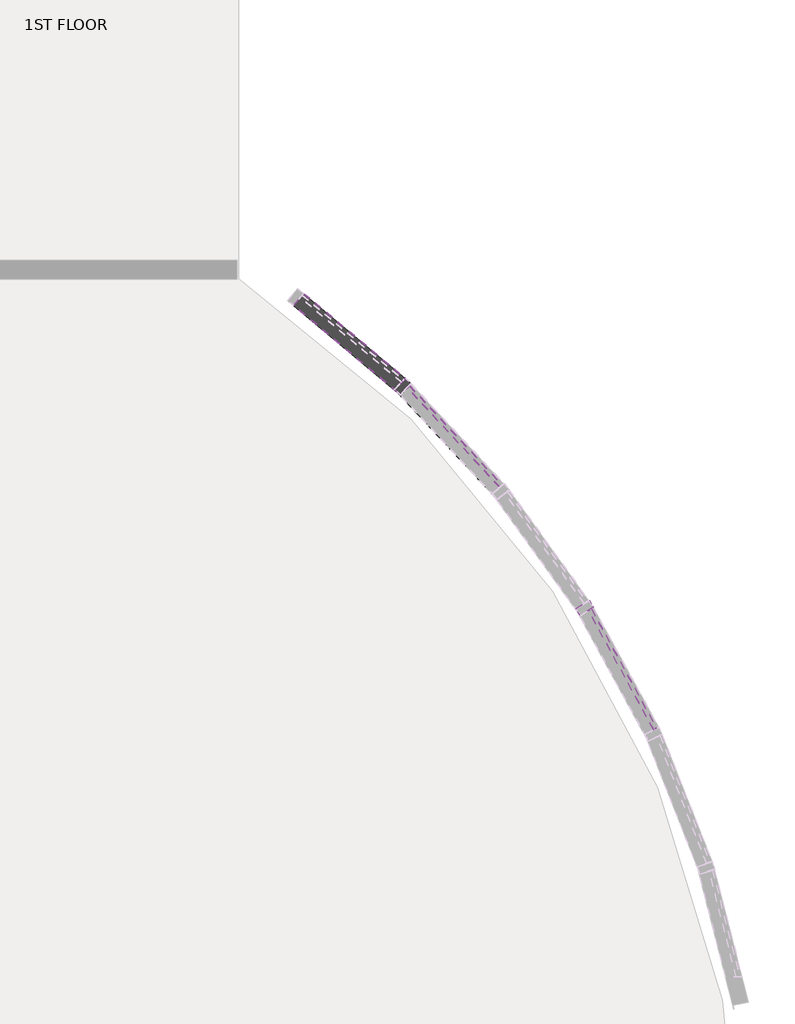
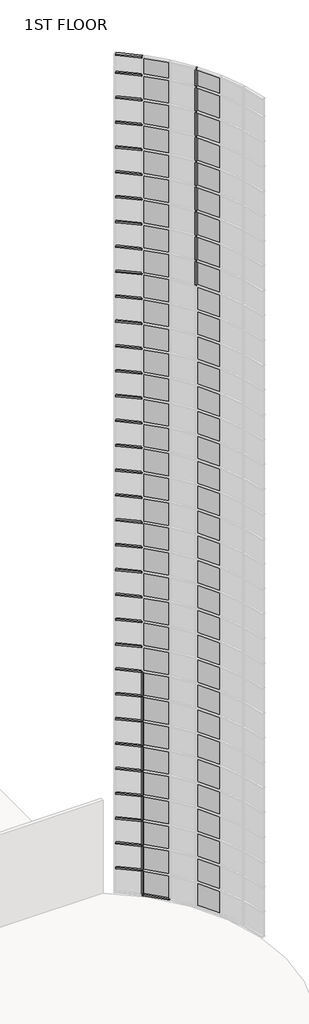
# One storey, part 12 of 17: 68 plates, 53 members.
"""IFC4 building model written with IfcOpenShell, lengths in millimetres."""

from ifc_helpers import new_model, si_unit, origin, place, context, project, spatial, transform, mapped, element, save
from components import member_5098c466, member_56cb0dcd, member_ae6f7b70, member_2b49869a, member_410c6227, system_panel_glazed_ce2914f7, system_panel_glazed_e049e42f, system_panel_glazed_5ae89cf9

model = new_model("IFC4")

# Units and contexts
model_context = context("Model", 3, world=origin())
ifc_project = project(units=[si_unit("LENGTHUNIT", "METRE", prefix="MILLI")], contexts=[model_context])

# Site, building, storey
site = spatial("IfcSite", under=ifc_project)
building = spatial("IfcBuilding", under=site)
storey = spatial("IfcBuildingStorey", under=building, Name="1ST FLOOR", Elevation=4572.0)

# Members
placement = place(None, origin())
member_shape = member_5098c466(model_context)
element("IfcMember", 1, ObjectType="Rectangular Mullion : 2.5\" x 5\" rectangular", at=placement, inside=storey, context=model_context, shape_type="MappedRepresentation", body=[
    mapped(member_shape, transform((45346.8045255, 23689.9028277, 45720.0), x_axis=(0.0, 0.0, 1.0), y_axis=(-0.6412039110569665, -0.767370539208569, 0.0), z_axis=(0.767370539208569, -0.6412039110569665, 0.0))),
])
member_2_shape = member_56cb0dcd(model_context)
element("IfcMember", 2, ObjectType="Rectangular Mullion : 2.5\" x 5\" rectangular", at=placement, inside=storey, context=model_context, shape_type="MappedRepresentation", body=[
    mapped(member_2_shape, transform((45392.8051979, 23646.3084778, 4572.0), x_axis=(0.0, 0.0, -1.0), y_axis=(-0.7318464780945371, -0.681469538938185, 0.0), z_axis=(-0.681469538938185, 0.7318464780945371, 0.0))),
])
member_3_shape = member_ae6f7b70(model_context)
element("IfcMember", 3, ObjectType="Rectangular Mullion : 2.5\" x 5\" rectangular", at=placement, inside=storey, context=model_context, shape_type="MappedRepresentation", body=[
    mapped(member_3_shape, transform((45346.8045255, 23689.9028277, 5791.2), x_axis=(0.0, 0.0, 1.0), y_axis=(-0.641203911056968, -0.7673705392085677, 0.0), z_axis=(0.7673705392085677, -0.641203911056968, 0.0))),
])
element("IfcMember", 4, ObjectType="Rectangular Mullion : 2.5\" x 5\" rectangular", at=placement, inside=storey, context=model_context, shape_type="MappedRepresentation", body=[
    mapped(member_3_shape, transform((45346.8045255, 23689.9028277, 7010.4), x_axis=(0.0, 0.0, 1.0), y_axis=(-0.641203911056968, -0.7673705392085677, 0.0), z_axis=(0.7673705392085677, -0.641203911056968, 0.0))),
])
element("IfcMember", 5, ObjectType="Rectangular Mullion : 2.5\" x 5\" rectangular", at=placement, inside=storey, context=model_context, shape_type="MappedRepresentation", body=[
    mapped(member_3_shape, transform((45346.8045255, 23689.9028277, 8229.6), x_axis=(0.0, 0.0, 1.0), y_axis=(-0.641203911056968, -0.7673705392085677, 0.0), z_axis=(0.7673705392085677, -0.641203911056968, 0.0))),
])
element("IfcMember", 6, ObjectType="Rectangular Mullion : 2.5\" x 5\" rectangular", at=placement, inside=storey, context=model_context, shape_type="MappedRepresentation", body=[
    mapped(member_3_shape, transform((45346.8045255, 23689.9028277, 9448.8), x_axis=(0.0, 0.0, 1.0), y_axis=(-0.641203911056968, -0.7673705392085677, 0.0), z_axis=(0.7673705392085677, -0.641203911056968, 0.0))),
])
element("IfcMember", 7, ObjectType="Rectangular Mullion : 2.5\" x 5\" rectangular", at=placement, inside=storey, context=model_context, shape_type="MappedRepresentation", body=[
    mapped(member_3_shape, transform((45346.8045255, 23689.9028277, 10668.0), x_axis=(0.0, 0.0, 1.0), y_axis=(-0.641203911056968, -0.7673705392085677, 0.0), z_axis=(0.7673705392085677, -0.641203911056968, 0.0))),
])
element("IfcMember", 8, ObjectType="Rectangular Mullion : 2.5\" x 5\" rectangular", at=placement, inside=storey, context=model_context, shape_type="MappedRepresentation", body=[
    mapped(member_3_shape, transform((45346.8045255, 23689.9028277, 11887.2), x_axis=(0.0, 0.0, 1.0), y_axis=(-0.6412039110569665, -0.767370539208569, 0.0), z_axis=(0.767370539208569, -0.6412039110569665, 0.0))),
])
element("IfcMember", 9, ObjectType="Rectangular Mullion : 2.5\" x 5\" rectangular", at=placement, inside=storey, context=model_context, shape_type="MappedRepresentation", body=[
    mapped(member_3_shape, transform((45346.8045255, 23689.9028277, 13106.4), x_axis=(0.0, 0.0, 1.0), y_axis=(-0.6412039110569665, -0.767370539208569, 0.0), z_axis=(0.767370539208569, -0.6412039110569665, 0.0))),
])
element("IfcMember", 10, ObjectType="Rectangular Mullion : 2.5\" x 5\" rectangular", at=placement, inside=storey, context=model_context, shape_type="MappedRepresentation", body=[
    mapped(member_3_shape, transform((45346.8045255, 23689.9028277, 14325.6), x_axis=(0.0, 0.0, 1.0), y_axis=(-0.6412039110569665, -0.767370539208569, 0.0), z_axis=(0.767370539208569, -0.6412039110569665, 0.0))),
])
element("IfcMember", 11, ObjectType="Rectangular Mullion : 2.5\" x 5\" rectangular", at=placement, inside=storey, context=model_context, shape_type="MappedRepresentation", body=[
    mapped(member_3_shape, transform((45346.8045255, 23689.9028277, 15544.8), x_axis=(0.0, 0.0, 1.0), y_axis=(-0.6412039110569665, -0.767370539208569, 0.0), z_axis=(0.767370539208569, -0.6412039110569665, 0.0))),
])
element("IfcMember", 12, ObjectType="Rectangular Mullion : 2.5\" x 5\" rectangular", at=placement, inside=storey, context=model_context, shape_type="MappedRepresentation", body=[
    mapped(member_3_shape, transform((45346.8045255, 23689.9028277, 16764.0), x_axis=(0.0, 0.0, 1.0), y_axis=(-0.6412039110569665, -0.767370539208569, 0.0), z_axis=(0.767370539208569, -0.6412039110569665, 0.0))),
])
element("IfcMember", 13, ObjectType="Rectangular Mullion : 2.5\" x 5\" rectangular", at=placement, inside=storey, context=model_context, shape_type="MappedRepresentation", body=[
    mapped(member_3_shape, transform((45346.8045255, 23689.9028277, 17983.2), x_axis=(0.0, 0.0, 1.0), y_axis=(-0.6412039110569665, -0.767370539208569, 0.0), z_axis=(0.767370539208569, -0.6412039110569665, 0.0))),
])
element("IfcMember", 14, ObjectType="Rectangular Mullion : 2.5\" x 5\" rectangular", at=placement, inside=storey, context=model_context, shape_type="MappedRepresentation", body=[
    mapped(member_3_shape, transform((45346.8045255, 23689.9028277, 19202.4), x_axis=(0.0, 0.0, 1.0), y_axis=(-0.6412039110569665, -0.767370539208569, 0.0), z_axis=(0.767370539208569, -0.6412039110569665, 0.0))),
])
element("IfcMember", 15, ObjectType="Rectangular Mullion : 2.5\" x 5\" rectangular", at=placement, inside=storey, context=model_context, shape_type="MappedRepresentation", body=[
    mapped(member_3_shape, transform((45346.8045255, 23689.9028277, 20421.6), x_axis=(0.0, 0.0, 1.0), y_axis=(-0.6412039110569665, -0.767370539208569, 0.0), z_axis=(0.767370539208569, -0.6412039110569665, 0.0))),
])
element("IfcMember", 16, ObjectType="Rectangular Mullion : 2.5\" x 5\" rectangular", at=placement, inside=storey, context=model_context, shape_type="MappedRepresentation", body=[
    mapped(member_3_shape, transform((45346.8045255, 23689.9028277, 21640.8), x_axis=(0.0, 0.0, 1.0), y_axis=(-0.6412039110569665, -0.767370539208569, 0.0), z_axis=(0.767370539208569, -0.6412039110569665, 0.0))),
])
element("IfcMember", 17, ObjectType="Rectangular Mullion : 2.5\" x 5\" rectangular", at=placement, inside=storey, context=model_context, shape_type="MappedRepresentation", body=[
    mapped(member_3_shape, transform((45346.8045255, 23689.9028277, 22860.0), x_axis=(0.0, 0.0, 1.0), y_axis=(-0.6412039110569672, -0.7673705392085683, 0.0), z_axis=(0.7673705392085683, -0.6412039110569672, 0.0))),
])
element("IfcMember", 18, ObjectType="Rectangular Mullion : 2.5\" x 5\" rectangular", at=placement, inside=storey, context=model_context, shape_type="MappedRepresentation", body=[
    mapped(member_3_shape, transform((45346.8045255, 23689.9028277, 24079.2), x_axis=(0.0, 0.0, 1.0), y_axis=(-0.6412039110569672, -0.7673705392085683, 0.0), z_axis=(0.7673705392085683, -0.6412039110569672, 0.0))),
])
element("IfcMember", 19, ObjectType="Rectangular Mullion : 2.5\" x 5\" rectangular", at=placement, inside=storey, context=model_context, shape_type="MappedRepresentation", body=[
    mapped(member_3_shape, transform((45346.8045255, 23689.9028277, 25298.4), x_axis=(0.0, 0.0, 1.0), y_axis=(-0.6412039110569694, -0.7673705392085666, 0.0), z_axis=(0.7673705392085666, -0.6412039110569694, 0.0))),
])
element("IfcMember", 20, ObjectType="Rectangular Mullion : 2.5\" x 5\" rectangular", at=placement, inside=storey, context=model_context, shape_type="MappedRepresentation", body=[
    mapped(member_3_shape, transform((45346.8045255, 23689.9028277, 26517.6), x_axis=(0.0, 0.0, 1.0), y_axis=(-0.6412039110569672, -0.7673705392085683, 0.0), z_axis=(0.7673705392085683, -0.6412039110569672, 0.0))),
])
element("IfcMember", 21, ObjectType="Rectangular Mullion : 2.5\" x 5\" rectangular", at=placement, inside=storey, context=model_context, shape_type="MappedRepresentation", body=[
    mapped(member_3_shape, transform((45346.8045255, 23689.9028277, 27736.8), x_axis=(0.0, 0.0, 1.0), y_axis=(-0.6412039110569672, -0.7673705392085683, 0.0), z_axis=(0.7673705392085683, -0.6412039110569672, 0.0))),
])
element("IfcMember", 22, ObjectType="Rectangular Mullion : 2.5\" x 5\" rectangular", at=placement, inside=storey, context=model_context, shape_type="MappedRepresentation", body=[
    mapped(member_3_shape, transform((45346.8045255, 23689.9028277, 28956.0), x_axis=(0.0, 0.0, 1.0), y_axis=(-0.6412039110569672, -0.7673705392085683, 0.0), z_axis=(0.7673705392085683, -0.6412039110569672, 0.0))),
])
element("IfcMember", 23, ObjectType="Rectangular Mullion : 2.5\" x 5\" rectangular", at=placement, inside=storey, context=model_context, shape_type="MappedRepresentation", body=[
    mapped(member_3_shape, transform((45346.8045255, 23689.9028277, 30175.2), x_axis=(0.0, 0.0, 1.0), y_axis=(-0.6412039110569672, -0.7673705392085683, 0.0), z_axis=(0.7673705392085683, -0.6412039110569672, 0.0))),
])
element("IfcMember", 24, ObjectType="Rectangular Mullion : 2.5\" x 5\" rectangular", at=placement, inside=storey, context=model_context, shape_type="MappedRepresentation", body=[
    mapped(member_3_shape, transform((45346.8045255, 23689.9028277, 31394.4), x_axis=(0.0, 0.0, 1.0), y_axis=(-0.6412039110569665, -0.767370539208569, 0.0), z_axis=(0.767370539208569, -0.6412039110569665, 0.0))),
])
element("IfcMember", 25, ObjectType="Rectangular Mullion : 2.5\" x 5\" rectangular", at=placement, inside=storey, context=model_context, shape_type="MappedRepresentation", body=[
    mapped(member_3_shape, transform((45346.8045255, 23689.9028277, 32613.6), x_axis=(0.0, 0.0, 1.0), y_axis=(-0.641203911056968, -0.7673705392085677, 0.0), z_axis=(0.7673705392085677, -0.641203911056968, 0.0))),
])
element("IfcMember", 26, ObjectType="Rectangular Mullion : 2.5\" x 5\" rectangular", at=placement, inside=storey, context=model_context, shape_type="MappedRepresentation", body=[
    mapped(member_3_shape, transform((45346.8045255, 23689.9028277, 33832.8), x_axis=(0.0, 0.0, 1.0), y_axis=(-0.641203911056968, -0.7673705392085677, 0.0), z_axis=(0.7673705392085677, -0.641203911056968, 0.0))),
])
element("IfcMember", 27, ObjectType="Rectangular Mullion : 2.5\" x 5\" rectangular", at=placement, inside=storey, context=model_context, shape_type="MappedRepresentation", body=[
    mapped(member_3_shape, transform((45346.8045255, 23689.9028277, 35052.0), x_axis=(0.0, 0.0, 1.0), y_axis=(-0.641203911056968, -0.7673705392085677, 0.0), z_axis=(0.7673705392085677, -0.641203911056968, 0.0))),
])
element("IfcMember", 28, ObjectType="Rectangular Mullion : 2.5\" x 5\" rectangular", at=placement, inside=storey, context=model_context, shape_type="MappedRepresentation", body=[
    mapped(member_3_shape, transform((45346.8045255, 23689.9028277, 36271.2), x_axis=(0.0, 0.0, 1.0), y_axis=(-0.641203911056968, -0.7673705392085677, 0.0), z_axis=(0.7673705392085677, -0.641203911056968, 0.0))),
])
element("IfcMember", 29, ObjectType="Rectangular Mullion : 2.5\" x 5\" rectangular", at=placement, inside=storey, context=model_context, shape_type="MappedRepresentation", body=[
    mapped(member_3_shape, transform((45346.8045255, 23689.9028277, 37490.4), x_axis=(0.0, 0.0, 1.0), y_axis=(-0.641203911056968, -0.7673705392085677, 0.0), z_axis=(0.7673705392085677, -0.641203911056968, 0.0))),
])
element("IfcMember", 30, ObjectType="Rectangular Mullion : 2.5\" x 5\" rectangular", at=placement, inside=storey, context=model_context, shape_type="MappedRepresentation", body=[
    mapped(member_3_shape, transform((45346.8045255, 23689.9028277, 38709.6), x_axis=(0.0, 0.0, 1.0), y_axis=(-0.641203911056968, -0.7673705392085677, 0.0), z_axis=(0.7673705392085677, -0.641203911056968, 0.0))),
])
element("IfcMember", 31, ObjectType="Rectangular Mullion : 2.5\" x 5\" rectangular", at=placement, inside=storey, context=model_context, shape_type="MappedRepresentation", body=[
    mapped(member_3_shape, transform((45346.8045255, 23689.9028277, 39928.8), x_axis=(0.0, 0.0, 1.0), y_axis=(-0.641203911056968, -0.7673705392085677, 0.0), z_axis=(0.7673705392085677, -0.641203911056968, 0.0))),
])
element("IfcMember", 32, ObjectType="Rectangular Mullion : 2.5\" x 5\" rectangular", at=placement, inside=storey, context=model_context, shape_type="MappedRepresentation", body=[
    mapped(member_3_shape, transform((45346.8045255, 23689.9028277, 41148.0), x_axis=(0.0, 0.0, 1.0), y_axis=(-0.641203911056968, -0.7673705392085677, 0.0), z_axis=(0.7673705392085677, -0.641203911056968, 0.0))),
])
element("IfcMember", 33, ObjectType="Rectangular Mullion : 2.5\" x 5\" rectangular", at=placement, inside=storey, context=model_context, shape_type="MappedRepresentation", body=[
    mapped(member_3_shape, transform((45346.8045255, 23689.9028277, 42367.2), x_axis=(0.0, 0.0, 1.0), y_axis=(-0.641203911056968, -0.7673705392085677, 0.0), z_axis=(0.7673705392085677, -0.641203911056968, 0.0))),
])
element("IfcMember", 34, ObjectType="Rectangular Mullion : 2.5\" x 5\" rectangular", at=placement, inside=storey, context=model_context, shape_type="MappedRepresentation", body=[
    mapped(member_3_shape, transform((45346.8045255, 23689.9028277, 43586.4), x_axis=(0.0, 0.0, 1.0), y_axis=(-0.641203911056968, -0.7673705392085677, 0.0), z_axis=(0.7673705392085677, -0.641203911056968, 0.0))),
])
element("IfcMember", 35, ObjectType="Rectangular Mullion : 2.5\" x 5\" rectangular", at=placement, inside=storey, context=model_context, shape_type="MappedRepresentation", body=[
    mapped(member_3_shape, transform((45346.8045255, 23689.9028277, 44805.6), x_axis=(0.0, 0.0, 1.0), y_axis=(-0.6412039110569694, -0.7673705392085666, 0.0), z_axis=(0.7673705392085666, -0.6412039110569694, 0.0))),
])
member_4_shape = member_2b49869a(model_context)
element("IfcMember", 36, ObjectType="Rectangular Mullion : 2.5\" x 5\" rectangular", at=placement, inside=storey, context=model_context, shape_type="MappedRepresentation", body=[
    mapped(member_4_shape, transform((45371.1685401, 23669.5446035, 4572.0), x_axis=(0.7258363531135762, -0.6878674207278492, 0.0), y_axis=(-0.6878674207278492, -0.7258363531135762, 0.0), z_axis=(0.0, 0.0, -1.0))),
])
element("IfcMember", 37, ObjectType="Rectangular Mullion : 2.5\" x 5\" rectangular", at=placement, inside=storey, context=model_context, shape_type="MappedRepresentation", body=[
    mapped(member_4_shape, transform((45371.1685401, 23669.5446035, 5791.2), x_axis=(0.7258363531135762, -0.6878674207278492, 0.0), y_axis=(-0.6878674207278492, -0.7258363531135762, 0.0), z_axis=(0.0, 0.0, -1.0))),
])
element("IfcMember", 38, ObjectType="Rectangular Mullion : 2.5\" x 5\" rectangular", at=placement, inside=storey, context=model_context, shape_type="MappedRepresentation", body=[
    mapped(member_4_shape, transform((45371.1685401, 23669.5446035, 7010.4), x_axis=(0.7258363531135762, -0.6878674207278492, 0.0), y_axis=(-0.6878674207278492, -0.7258363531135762, 0.0), z_axis=(0.0, 0.0, -1.0))),
])
element("IfcMember", 39, ObjectType="Rectangular Mullion : 2.5\" x 5\" rectangular", at=placement, inside=storey, context=model_context, shape_type="MappedRepresentation", body=[
    mapped(member_4_shape, transform((45371.1685401, 23669.5446035, 8229.6), x_axis=(0.7258363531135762, -0.6878674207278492, 0.0), y_axis=(-0.6878674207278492, -0.7258363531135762, 0.0), z_axis=(0.0, 0.0, -1.0))),
])
element("IfcMember", 40, ObjectType="Rectangular Mullion : 2.5\" x 5\" rectangular", at=placement, inside=storey, context=model_context, shape_type="MappedRepresentation", body=[
    mapped(member_4_shape, transform((45371.1685401, 23669.5446035, 9448.8), x_axis=(0.7258363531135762, -0.6878674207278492, 0.0), y_axis=(-0.6878674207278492, -0.7258363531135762, 0.0), z_axis=(0.0, 0.0, -1.0))),
])
element("IfcMember", 41, ObjectType="Rectangular Mullion : 2.5\" x 5\" rectangular", at=placement, inside=storey, context=model_context, shape_type="MappedRepresentation", body=[
    mapped(member_4_shape, transform((45371.1685401, 23669.5446035, 10668.0), x_axis=(0.7258363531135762, -0.6878674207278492, 0.0), y_axis=(-0.6878674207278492, -0.7258363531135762, 0.0), z_axis=(0.0, 0.0, -1.0))),
])
element("IfcMember", 42, ObjectType="Rectangular Mullion : 2.5\" x 5\" rectangular", at=placement, inside=storey, context=model_context, shape_type="MappedRepresentation", body=[
    mapped(member_4_shape, transform((45371.1685401, 23669.5446035, 11887.2), x_axis=(0.7258363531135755, -0.6878674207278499, 0.0), y_axis=(-0.6878674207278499, -0.7258363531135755, 0.0), z_axis=(0.0, 0.0, -1.0))),
])
element("IfcMember", 43, ObjectType="Rectangular Mullion : 2.5\" x 5\" rectangular", at=placement, inside=storey, context=model_context, shape_type="MappedRepresentation", body=[
    mapped(member_4_shape, transform((45371.1685401, 23669.5446035, 13106.4), x_axis=(0.7258363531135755, -0.6878674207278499, 0.0), y_axis=(-0.6878674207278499, -0.7258363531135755, 0.0), z_axis=(0.0, 0.0, -1.0))),
])
element("IfcMember", 44, ObjectType="Rectangular Mullion : 2.5\" x 5\" rectangular", at=placement, inside=storey, context=model_context, shape_type="MappedRepresentation", body=[
    mapped(member_4_shape, transform((45371.1685401, 23669.5446035, 14325.6), x_axis=(0.7258363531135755, -0.6878674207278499, 0.0), y_axis=(-0.6878674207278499, -0.7258363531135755, 0.0), z_axis=(0.0, 0.0, -1.0))),
])
element("IfcMember", 45, ObjectType="Rectangular Mullion : 2.5\" x 5\" rectangular", at=placement, inside=storey, context=model_context, shape_type="MappedRepresentation", body=[
    mapped(member_4_shape, transform((46841.8922379, 21877.6987498, 35052.0), x_axis=(0.5331559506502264, -0.846016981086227, 0.0), y_axis=(-0.846016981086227, -0.5331559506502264, 0.0), z_axis=(0.0, 0.0, -1.0))),
])
element("IfcMember", 46, ObjectType="Rectangular Mullion : 2.5\" x 5\" rectangular", at=placement, inside=storey, context=model_context, shape_type="MappedRepresentation", body=[
    mapped(member_4_shape, transform((46841.8922379, 21877.6987498, 36271.2), x_axis=(0.5331559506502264, -0.846016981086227, 0.0), y_axis=(-0.846016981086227, -0.5331559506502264, 0.0), z_axis=(0.0, 0.0, -1.0))),
])
element("IfcMember", 47, ObjectType="Rectangular Mullion : 2.5\" x 5\" rectangular", at=placement, inside=storey, context=model_context, shape_type="MappedRepresentation", body=[
    mapped(member_4_shape, transform((46841.8922379, 21877.6987498, 37490.4), x_axis=(0.5331559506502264, -0.846016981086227, 0.0), y_axis=(-0.846016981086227, -0.5331559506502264, 0.0), z_axis=(0.0, 0.0, -1.0))),
])
element("IfcMember", 48, ObjectType="Rectangular Mullion : 2.5\" x 5\" rectangular", at=placement, inside=storey, context=model_context, shape_type="MappedRepresentation", body=[
    mapped(member_4_shape, transform((46841.8922379, 21877.6987498, 38709.6), x_axis=(0.5331559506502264, -0.846016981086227, 0.0), y_axis=(-0.846016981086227, -0.5331559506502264, 0.0), z_axis=(0.0, 0.0, -1.0))),
])
element("IfcMember", 49, ObjectType="Rectangular Mullion : 2.5\" x 5\" rectangular", at=placement, inside=storey, context=model_context, shape_type="MappedRepresentation", body=[
    mapped(member_4_shape, transform((46841.8922379, 21877.6987498, 39928.8), x_axis=(0.5331559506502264, -0.846016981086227, 0.0), y_axis=(-0.846016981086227, -0.5331559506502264, 0.0), z_axis=(0.0, 0.0, -1.0))),
])
element("IfcMember", 50, ObjectType="Rectangular Mullion : 2.5\" x 5\" rectangular", at=placement, inside=storey, context=model_context, shape_type="MappedRepresentation", body=[
    mapped(member_4_shape, transform((46841.8922379, 21877.6987498, 41148.0), x_axis=(0.5331559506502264, -0.846016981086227, 0.0), y_axis=(-0.846016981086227, -0.5331559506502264, 0.0), z_axis=(0.0, 0.0, -1.0))),
])
element("IfcMember", 51, ObjectType="Rectangular Mullion : 2.5\" x 5\" rectangular", at=placement, inside=storey, context=model_context, shape_type="MappedRepresentation", body=[
    mapped(member_4_shape, transform((46841.8922379, 21877.6987498, 42367.2), x_axis=(0.5331559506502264, -0.846016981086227, 0.0), y_axis=(-0.846016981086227, -0.5331559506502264, 0.0), z_axis=(0.0, 0.0, -1.0))),
])
element("IfcMember", 52, ObjectType="Rectangular Mullion : 2.5\" x 5\" rectangular", at=placement, inside=storey, context=model_context, shape_type="MappedRepresentation", body=[
    mapped(member_4_shape, transform((46841.8922379, 21877.6987498, 43586.4), x_axis=(0.5331559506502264, -0.846016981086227, 0.0), y_axis=(-0.846016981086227, -0.5331559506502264, 0.0), z_axis=(0.0, 0.0, -1.0))),
])
member_5_shape = member_410c6227(model_context)
element("IfcMember", 53, ObjectType="Rectangular Mullion : 2.5\" x 5\" rectangular", at=placement, inside=storey, context=model_context, shape_type="MappedRepresentation", body=[
    mapped(member_5_shape, transform((46841.8922379, 21877.6987498, 44805.6), x_axis=(0.5331559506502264, -0.846016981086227, 0.0), y_axis=(-0.846016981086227, -0.5331559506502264, 0.0), z_axis=(0.0, 0.0, -1.0))),
])

# Plates
system_panel_glazed_shape = system_panel_glazed_ce2914f7(model_context)
element("IfcPlate", 54, ObjectType="System Panel : Glazed", at=placement, inside=storey, context=model_context, shape_type="MappedRepresentation", body=[
    mapped(system_panel_glazed_shape, transform((45766.8749019, 23244.5860534, 4635.5), x_axis=(0.6814695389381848, -0.7318464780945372, 0.0), y_axis=(0.7318464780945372, 0.6814695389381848, 0.0), z_axis=(0.0, 0.0, 1.0))),
])
element("IfcPlate", 55, ObjectType="System Panel : Glazed", at=placement, inside=storey, context=model_context, shape_type="MappedRepresentation", body=[
    mapped(system_panel_glazed_shape, transform((47120.1999037, 21368.0732626, 4635.5), x_axis=(0.4792902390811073, -0.8776564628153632, 0.0), y_axis=(0.8776564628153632, 0.4792902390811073, 0.0), z_axis=(0.0, 0.0, 1.0))),
])
system_panel_glazed_2_shape = system_panel_glazed_e049e42f(model_context)
element("IfcPlate", 56, ObjectType="System Panel : Glazed", at=placement, inside=storey, context=model_context, shape_type="MappedRepresentation", body=[
    mapped(system_panel_glazed_2_shape, transform((45766.8749019, 23244.5860534, 5822.95), x_axis=(0.681469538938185, -0.7318464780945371, 0.0), y_axis=(0.7318464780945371, 0.681469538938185, 0.0), z_axis=(0.0, 0.0, 1.0))),
])
element("IfcPlate", 57, ObjectType="System Panel : Glazed", at=placement, inside=storey, context=model_context, shape_type="MappedRepresentation", body=[
    mapped(system_panel_glazed_2_shape, transform((47120.1999037, 21368.0732626, 5822.95), x_axis=(0.4792902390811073, -0.8776564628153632, 0.0), y_axis=(0.8776564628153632, 0.4792902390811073, 0.0), z_axis=(0.0, 0.0, 1.0))),
])
element("IfcPlate", 58, ObjectType="System Panel : Glazed", at=placement, inside=storey, context=model_context, shape_type="MappedRepresentation", body=[
    mapped(system_panel_glazed_2_shape, transform((45766.8749019, 23244.5860534, 7042.15), x_axis=(0.681469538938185, -0.7318464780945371, 0.0), y_axis=(0.7318464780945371, 0.681469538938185, 0.0), z_axis=(0.0, 0.0, 1.0))),
])
element("IfcPlate", 59, ObjectType="System Panel : Glazed", at=placement, inside=storey, context=model_context, shape_type="MappedRepresentation", body=[
    mapped(system_panel_glazed_2_shape, transform((47120.1999037, 21368.0732626, 7042.15), x_axis=(0.4792902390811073, -0.8776564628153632, 0.0), y_axis=(0.8776564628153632, 0.4792902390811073, 0.0), z_axis=(0.0, 0.0, 1.0))),
])
element("IfcPlate", 60, ObjectType="System Panel : Glazed", at=placement, inside=storey, context=model_context, shape_type="MappedRepresentation", body=[
    mapped(system_panel_glazed_2_shape, transform((45766.8749019, 23244.5860534, 8261.35), x_axis=(0.681469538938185, -0.7318464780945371, 0.0), y_axis=(0.7318464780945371, 0.681469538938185, 0.0), z_axis=(0.0, 0.0, 1.0))),
])
element("IfcPlate", 61, ObjectType="System Panel : Glazed", at=placement, inside=storey, context=model_context, shape_type="MappedRepresentation", body=[
    mapped(system_panel_glazed_2_shape, transform((47120.1999037, 21368.0732626, 8261.35), x_axis=(0.4792902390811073, -0.8776564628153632, 0.0), y_axis=(0.8776564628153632, 0.4792902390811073, 0.0), z_axis=(0.0, 0.0, 1.0))),
])
element("IfcPlate", 62, ObjectType="System Panel : Glazed", at=placement, inside=storey, context=model_context, shape_type="MappedRepresentation", body=[
    mapped(system_panel_glazed_2_shape, transform((45766.8749019, 23244.5860534, 9480.55), x_axis=(0.681469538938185, -0.7318464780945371, 0.0), y_axis=(0.7318464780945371, 0.681469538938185, 0.0), z_axis=(0.0, 0.0, 1.0))),
])
element("IfcPlate", 63, ObjectType="System Panel : Glazed", at=placement, inside=storey, context=model_context, shape_type="MappedRepresentation", body=[
    mapped(system_panel_glazed_2_shape, transform((47120.1999037, 21368.0732626, 9480.55), x_axis=(0.4792902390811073, -0.8776564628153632, 0.0), y_axis=(0.8776564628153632, 0.4792902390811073, 0.0), z_axis=(0.0, 0.0, 1.0))),
])
element("IfcPlate", 64, ObjectType="System Panel : Glazed", at=placement, inside=storey, context=model_context, shape_type="MappedRepresentation", body=[
    mapped(system_panel_glazed_2_shape, transform((45766.8749019, 23244.5860534, 10699.75), x_axis=(0.681469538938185, -0.7318464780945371, 0.0), y_axis=(0.7318464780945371, 0.681469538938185, 0.0), z_axis=(0.0, 0.0, 1.0))),
])
element("IfcPlate", 65, ObjectType="System Panel : Glazed", at=placement, inside=storey, context=model_context, shape_type="MappedRepresentation", body=[
    mapped(system_panel_glazed_2_shape, transform((47120.1999037, 21368.0732626, 10699.75), x_axis=(0.4792902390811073, -0.8776564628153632, 0.0), y_axis=(0.8776564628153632, 0.4792902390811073, 0.0), z_axis=(0.0, 0.0, 1.0))),
])
element("IfcPlate", 66, ObjectType="System Panel : Glazed", at=placement, inside=storey, context=model_context, shape_type="MappedRepresentation", body=[
    mapped(system_panel_glazed_2_shape, transform((45766.8749019, 23244.5860534, 11918.95), x_axis=(0.681469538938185, -0.7318464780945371, 0.0), y_axis=(0.7318464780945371, 0.681469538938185, 0.0), z_axis=(0.0, 0.0, 1.0))),
])
element("IfcPlate", 67, ObjectType="System Panel : Glazed", at=placement, inside=storey, context=model_context, shape_type="MappedRepresentation", body=[
    mapped(system_panel_glazed_2_shape, transform((47120.1999037, 21368.0732626, 11918.95), x_axis=(0.4792902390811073, -0.8776564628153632, 0.0), y_axis=(0.8776564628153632, 0.4792902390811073, 0.0), z_axis=(0.0, 0.0, 1.0))),
])
element("IfcPlate", 68, ObjectType="System Panel : Glazed", at=placement, inside=storey, context=model_context, shape_type="MappedRepresentation", body=[
    mapped(system_panel_glazed_2_shape, transform((45766.8749019, 23244.5860534, 13138.15), x_axis=(0.681469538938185, -0.7318464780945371, 0.0), y_axis=(0.7318464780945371, 0.681469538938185, 0.0), z_axis=(0.0, 0.0, 1.0))),
])
element("IfcPlate", 69, ObjectType="System Panel : Glazed", at=placement, inside=storey, context=model_context, shape_type="MappedRepresentation", body=[
    mapped(system_panel_glazed_2_shape, transform((47120.1999037, 21368.0732626, 13138.15), x_axis=(0.4792902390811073, -0.8776564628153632, 0.0), y_axis=(0.8776564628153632, 0.4792902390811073, 0.0), z_axis=(0.0, 0.0, 1.0))),
])
element("IfcPlate", 70, ObjectType="System Panel : Glazed", at=placement, inside=storey, context=model_context, shape_type="MappedRepresentation", body=[
    mapped(system_panel_glazed_2_shape, transform((45766.8749019, 23244.5860534, 14357.35), x_axis=(0.681469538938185, -0.7318464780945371, 0.0), y_axis=(0.7318464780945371, 0.681469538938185, 0.0), z_axis=(0.0, 0.0, 1.0))),
])
element("IfcPlate", 71, ObjectType="System Panel : Glazed", at=placement, inside=storey, context=model_context, shape_type="MappedRepresentation", body=[
    mapped(system_panel_glazed_2_shape, transform((47120.1999037, 21368.0732626, 14357.35), x_axis=(0.4792902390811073, -0.8776564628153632, 0.0), y_axis=(0.8776564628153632, 0.4792902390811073, 0.0), z_axis=(0.0, 0.0, 1.0))),
])
element("IfcPlate", 72, ObjectType="System Panel : Glazed", at=placement, inside=storey, context=model_context, shape_type="MappedRepresentation", body=[
    mapped(system_panel_glazed_2_shape, transform((45766.8749019, 23244.5860534, 15576.55), x_axis=(0.681469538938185, -0.7318464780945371, 0.0), y_axis=(0.7318464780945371, 0.681469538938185, 0.0), z_axis=(0.0, 0.0, 1.0))),
])
element("IfcPlate", 73, ObjectType="System Panel : Glazed", at=placement, inside=storey, context=model_context, shape_type="MappedRepresentation", body=[
    mapped(system_panel_glazed_2_shape, transform((47120.1999037, 21368.0732626, 15576.55), x_axis=(0.4792902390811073, -0.8776564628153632, 0.0), y_axis=(0.8776564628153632, 0.4792902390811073, 0.0), z_axis=(0.0, 0.0, 1.0))),
])
element("IfcPlate", 74, ObjectType="System Panel : Glazed", at=placement, inside=storey, context=model_context, shape_type="MappedRepresentation", body=[
    mapped(system_panel_glazed_2_shape, transform((45766.8749019, 23244.5860534, 16795.75), x_axis=(0.681469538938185, -0.7318464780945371, 0.0), y_axis=(0.7318464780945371, 0.681469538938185, 0.0), z_axis=(0.0, 0.0, 1.0))),
])
element("IfcPlate", 75, ObjectType="System Panel : Glazed", at=placement, inside=storey, context=model_context, shape_type="MappedRepresentation", body=[
    mapped(system_panel_glazed_2_shape, transform((47120.1999037, 21368.0732626, 16795.75), x_axis=(0.4792902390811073, -0.8776564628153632, 0.0), y_axis=(0.8776564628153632, 0.4792902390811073, 0.0), z_axis=(0.0, 0.0, 1.0))),
])
element("IfcPlate", 76, ObjectType="System Panel : Glazed", at=placement, inside=storey, context=model_context, shape_type="MappedRepresentation", body=[
    mapped(system_panel_glazed_2_shape, transform((45766.8749019, 23244.5860534, 18014.95), x_axis=(0.681469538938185, -0.7318464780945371, 0.0), y_axis=(0.7318464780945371, 0.681469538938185, 0.0), z_axis=(0.0, 0.0, 1.0))),
])
element("IfcPlate", 77, ObjectType="System Panel : Glazed", at=placement, inside=storey, context=model_context, shape_type="MappedRepresentation", body=[
    mapped(system_panel_glazed_2_shape, transform((47120.1999037, 21368.0732626, 18014.95), x_axis=(0.4792902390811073, -0.8776564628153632, 0.0), y_axis=(0.8776564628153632, 0.4792902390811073, 0.0), z_axis=(0.0, 0.0, 1.0))),
])
element("IfcPlate", 78, ObjectType="System Panel : Glazed", at=placement, inside=storey, context=model_context, shape_type="MappedRepresentation", body=[
    mapped(system_panel_glazed_2_shape, transform((45766.8749019, 23244.5860534, 19234.15), x_axis=(0.681469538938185, -0.7318464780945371, 0.0), y_axis=(0.7318464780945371, 0.681469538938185, 0.0), z_axis=(0.0, 0.0, 1.0))),
])
element("IfcPlate", 79, ObjectType="System Panel : Glazed", at=placement, inside=storey, context=model_context, shape_type="MappedRepresentation", body=[
    mapped(system_panel_glazed_2_shape, transform((47120.1999037, 21368.0732626, 19234.15), x_axis=(0.4792902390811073, -0.8776564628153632, 0.0), y_axis=(0.8776564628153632, 0.4792902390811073, 0.0), z_axis=(0.0, 0.0, 1.0))),
])
element("IfcPlate", 80, ObjectType="System Panel : Glazed", at=placement, inside=storey, context=model_context, shape_type="MappedRepresentation", body=[
    mapped(system_panel_glazed_2_shape, transform((45766.8749019, 23244.5860534, 20453.35), x_axis=(0.681469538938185, -0.7318464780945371, 0.0), y_axis=(0.7318464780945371, 0.681469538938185, 0.0), z_axis=(0.0, 0.0, 1.0))),
])
element("IfcPlate", 81, ObjectType="System Panel : Glazed", at=placement, inside=storey, context=model_context, shape_type="MappedRepresentation", body=[
    mapped(system_panel_glazed_2_shape, transform((47120.1999037, 21368.0732626, 20453.35), x_axis=(0.4792902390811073, -0.8776564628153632, 0.0), y_axis=(0.8776564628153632, 0.4792902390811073, 0.0), z_axis=(0.0, 0.0, 1.0))),
])
element("IfcPlate", 82, ObjectType="System Panel : Glazed", at=placement, inside=storey, context=model_context, shape_type="MappedRepresentation", body=[
    mapped(system_panel_glazed_2_shape, transform((45766.8749019, 23244.5860534, 21672.55), x_axis=(0.681469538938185, -0.7318464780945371, 0.0), y_axis=(0.7318464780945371, 0.681469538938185, 0.0), z_axis=(0.0, 0.0, 1.0))),
])
element("IfcPlate", 83, ObjectType="System Panel : Glazed", at=placement, inside=storey, context=model_context, shape_type="MappedRepresentation", body=[
    mapped(system_panel_glazed_2_shape, transform((47120.1999037, 21368.0732626, 21672.55), x_axis=(0.4792902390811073, -0.8776564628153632, 0.0), y_axis=(0.8776564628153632, 0.4792902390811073, 0.0), z_axis=(0.0, 0.0, 1.0))),
])
element("IfcPlate", 84, ObjectType="System Panel : Glazed", at=placement, inside=storey, context=model_context, shape_type="MappedRepresentation", body=[
    mapped(system_panel_glazed_2_shape, transform((45766.8749019, 23244.5860534, 22891.75), x_axis=(0.681469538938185, -0.7318464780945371, 0.0), y_axis=(0.7318464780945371, 0.681469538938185, 0.0), z_axis=(0.0, 0.0, 1.0))),
])
element("IfcPlate", 85, ObjectType="System Panel : Glazed", at=placement, inside=storey, context=model_context, shape_type="MappedRepresentation", body=[
    mapped(system_panel_glazed_2_shape, transform((47120.1999037, 21368.0732626, 22891.75), x_axis=(0.4792902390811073, -0.8776564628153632, 0.0), y_axis=(0.8776564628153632, 0.4792902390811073, 0.0), z_axis=(0.0, 0.0, 1.0))),
])
element("IfcPlate", 86, ObjectType="System Panel : Glazed", at=placement, inside=storey, context=model_context, shape_type="MappedRepresentation", body=[
    mapped(system_panel_glazed_2_shape, transform((45766.8749019, 23244.5860534, 24110.95), x_axis=(0.681469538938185, -0.7318464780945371, 0.0), y_axis=(0.7318464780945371, 0.681469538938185, 0.0), z_axis=(0.0, 0.0, 1.0))),
])
element("IfcPlate", 87, ObjectType="System Panel : Glazed", at=placement, inside=storey, context=model_context, shape_type="MappedRepresentation", body=[
    mapped(system_panel_glazed_2_shape, transform((47120.1999037, 21368.0732626, 24110.95), x_axis=(0.4792902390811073, -0.8776564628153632, 0.0), y_axis=(0.8776564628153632, 0.4792902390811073, 0.0), z_axis=(0.0, 0.0, 1.0))),
])
element("IfcPlate", 88, ObjectType="System Panel : Glazed", at=placement, inside=storey, context=model_context, shape_type="MappedRepresentation", body=[
    mapped(system_panel_glazed_2_shape, transform((45766.8749019, 23244.5860534, 25330.15), x_axis=(0.681469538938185, -0.7318464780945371, 0.0), y_axis=(0.7318464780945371, 0.681469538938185, 0.0), z_axis=(0.0, 0.0, 1.0))),
])
element("IfcPlate", 89, ObjectType="System Panel : Glazed", at=placement, inside=storey, context=model_context, shape_type="MappedRepresentation", body=[
    mapped(system_panel_glazed_2_shape, transform((47120.1999037, 21368.0732626, 25330.15), x_axis=(0.4792902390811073, -0.8776564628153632, 0.0), y_axis=(0.8776564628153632, 0.4792902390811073, 0.0), z_axis=(0.0, 0.0, 1.0))),
])
element("IfcPlate", 90, ObjectType="System Panel : Glazed", at=placement, inside=storey, context=model_context, shape_type="MappedRepresentation", body=[
    mapped(system_panel_glazed_2_shape, transform((45766.8749019, 23244.5860534, 26549.35), x_axis=(0.681469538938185, -0.7318464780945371, 0.0), y_axis=(0.7318464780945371, 0.681469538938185, 0.0), z_axis=(0.0, 0.0, 1.0))),
])
element("IfcPlate", 91, ObjectType="System Panel : Glazed", at=placement, inside=storey, context=model_context, shape_type="MappedRepresentation", body=[
    mapped(system_panel_glazed_2_shape, transform((47120.1999037, 21368.0732626, 26549.35), x_axis=(0.4792902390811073, -0.8776564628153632, 0.0), y_axis=(0.8776564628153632, 0.4792902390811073, 0.0), z_axis=(0.0, 0.0, 1.0))),
])
element("IfcPlate", 92, ObjectType="System Panel : Glazed", at=placement, inside=storey, context=model_context, shape_type="MappedRepresentation", body=[
    mapped(system_panel_glazed_2_shape, transform((45766.8749019, 23244.5860534, 27768.55), x_axis=(0.681469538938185, -0.7318464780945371, 0.0), y_axis=(0.7318464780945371, 0.681469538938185, 0.0), z_axis=(0.0, 0.0, 1.0))),
])
element("IfcPlate", 93, ObjectType="System Panel : Glazed", at=placement, inside=storey, context=model_context, shape_type="MappedRepresentation", body=[
    mapped(system_panel_glazed_2_shape, transform((47120.1999037, 21368.0732626, 27768.55), x_axis=(0.4792902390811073, -0.8776564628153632, 0.0), y_axis=(0.8776564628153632, 0.4792902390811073, 0.0), z_axis=(0.0, 0.0, 1.0))),
])
element("IfcPlate", 94, ObjectType="System Panel : Glazed", at=placement, inside=storey, context=model_context, shape_type="MappedRepresentation", body=[
    mapped(system_panel_glazed_2_shape, transform((45766.8749019, 23244.5860534, 28987.75), x_axis=(0.681469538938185, -0.7318464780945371, 0.0), y_axis=(0.7318464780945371, 0.681469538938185, 0.0), z_axis=(0.0, 0.0, 1.0))),
])
element("IfcPlate", 95, ObjectType="System Panel : Glazed", at=placement, inside=storey, context=model_context, shape_type="MappedRepresentation", body=[
    mapped(system_panel_glazed_2_shape, transform((47120.1999037, 21368.0732626, 28987.75), x_axis=(0.4792902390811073, -0.8776564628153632, 0.0), y_axis=(0.8776564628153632, 0.4792902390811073, 0.0), z_axis=(0.0, 0.0, 1.0))),
])
element("IfcPlate", 96, ObjectType="System Panel : Glazed", at=placement, inside=storey, context=model_context, shape_type="MappedRepresentation", body=[
    mapped(system_panel_glazed_2_shape, transform((45766.8749019, 23244.5860534, 30206.95), x_axis=(0.681469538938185, -0.7318464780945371, 0.0), y_axis=(0.7318464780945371, 0.681469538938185, 0.0), z_axis=(0.0, 0.0, 1.0))),
])
element("IfcPlate", 97, ObjectType="System Panel : Glazed", at=placement, inside=storey, context=model_context, shape_type="MappedRepresentation", body=[
    mapped(system_panel_glazed_2_shape, transform((47120.1999037, 21368.0732626, 30206.95), x_axis=(0.4792902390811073, -0.8776564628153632, 0.0), y_axis=(0.8776564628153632, 0.4792902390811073, 0.0), z_axis=(0.0, 0.0, 1.0))),
])
element("IfcPlate", 98, ObjectType="System Panel : Glazed", at=placement, inside=storey, context=model_context, shape_type="MappedRepresentation", body=[
    mapped(system_panel_glazed_2_shape, transform((45766.8749019, 23244.5860534, 31426.15), x_axis=(0.681469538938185, -0.7318464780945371, 0.0), y_axis=(0.7318464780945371, 0.681469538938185, 0.0), z_axis=(0.0, 0.0, 1.0))),
])
element("IfcPlate", 99, ObjectType="System Panel : Glazed", at=placement, inside=storey, context=model_context, shape_type="MappedRepresentation", body=[
    mapped(system_panel_glazed_2_shape, transform((47120.1999037, 21368.0732626, 31426.15), x_axis=(0.4792902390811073, -0.8776564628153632, 0.0), y_axis=(0.8776564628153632, 0.4792902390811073, 0.0), z_axis=(0.0, 0.0, 1.0))),
])
element("IfcPlate", 100, ObjectType="System Panel : Glazed", at=placement, inside=storey, context=model_context, shape_type="MappedRepresentation", body=[
    mapped(system_panel_glazed_2_shape, transform((45766.8749019, 23244.5860534, 32645.35), x_axis=(0.681469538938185, -0.7318464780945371, 0.0), y_axis=(0.7318464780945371, 0.681469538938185, 0.0), z_axis=(0.0, 0.0, 1.0))),
])
element("IfcPlate", 101, ObjectType="System Panel : Glazed", at=placement, inside=storey, context=model_context, shape_type="MappedRepresentation", body=[
    mapped(system_panel_glazed_2_shape, transform((47120.1999037, 21368.0732626, 32645.35), x_axis=(0.4792902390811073, -0.8776564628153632, 0.0), y_axis=(0.8776564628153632, 0.4792902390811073, 0.0), z_axis=(0.0, 0.0, 1.0))),
])
element("IfcPlate", 102, ObjectType="System Panel : Glazed", at=placement, inside=storey, context=model_context, shape_type="MappedRepresentation", body=[
    mapped(system_panel_glazed_2_shape, transform((45766.8749019, 23244.5860534, 33864.55), x_axis=(0.681469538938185, -0.7318464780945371, 0.0), y_axis=(0.7318464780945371, 0.681469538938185, 0.0), z_axis=(0.0, 0.0, 1.0))),
])
element("IfcPlate", 103, ObjectType="System Panel : Glazed", at=placement, inside=storey, context=model_context, shape_type="MappedRepresentation", body=[
    mapped(system_panel_glazed_2_shape, transform((47120.1999037, 21368.0732626, 33864.55), x_axis=(0.4792902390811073, -0.8776564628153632, 0.0), y_axis=(0.8776564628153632, 0.4792902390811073, 0.0), z_axis=(0.0, 0.0, 1.0))),
])
element("IfcPlate", 104, ObjectType="System Panel : Glazed", at=placement, inside=storey, context=model_context, shape_type="MappedRepresentation", body=[
    mapped(system_panel_glazed_2_shape, transform((45766.8749019, 23244.5860534, 35083.75), x_axis=(0.681469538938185, -0.7318464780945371, 0.0), y_axis=(0.7318464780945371, 0.681469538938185, 0.0), z_axis=(0.0, 0.0, 1.0))),
])
element("IfcPlate", 105, ObjectType="System Panel : Glazed", at=placement, inside=storey, context=model_context, shape_type="MappedRepresentation", body=[
    mapped(system_panel_glazed_2_shape, transform((47120.1999037, 21368.0732626, 35083.75), x_axis=(0.4792902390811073, -0.8776564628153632, 0.0), y_axis=(0.8776564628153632, 0.4792902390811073, 0.0), z_axis=(0.0, 0.0, 1.0))),
])
element("IfcPlate", 106, ObjectType="System Panel : Glazed", at=placement, inside=storey, context=model_context, shape_type="MappedRepresentation", body=[
    mapped(system_panel_glazed_2_shape, transform((45766.8749019, 23244.5860534, 36302.95), x_axis=(0.681469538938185, -0.7318464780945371, 0.0), y_axis=(0.7318464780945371, 0.681469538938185, 0.0), z_axis=(0.0, 0.0, 1.0))),
])
element("IfcPlate", 107, ObjectType="System Panel : Glazed", at=placement, inside=storey, context=model_context, shape_type="MappedRepresentation", body=[
    mapped(system_panel_glazed_2_shape, transform((47120.1999037, 21368.0732626, 36302.95), x_axis=(0.4792902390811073, -0.8776564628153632, 0.0), y_axis=(0.8776564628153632, 0.4792902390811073, 0.0), z_axis=(0.0, 0.0, 1.0))),
])
element("IfcPlate", 108, ObjectType="System Panel : Glazed", at=placement, inside=storey, context=model_context, shape_type="MappedRepresentation", body=[
    mapped(system_panel_glazed_2_shape, transform((45766.8749019, 23244.5860534, 37522.15), x_axis=(0.681469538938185, -0.7318464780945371, 0.0), y_axis=(0.7318464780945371, 0.681469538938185, 0.0), z_axis=(0.0, 0.0, 1.0))),
])
element("IfcPlate", 109, ObjectType="System Panel : Glazed", at=placement, inside=storey, context=model_context, shape_type="MappedRepresentation", body=[
    mapped(system_panel_glazed_2_shape, transform((47120.1999037, 21368.0732626, 37522.15), x_axis=(0.4792902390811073, -0.8776564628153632, 0.0), y_axis=(0.8776564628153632, 0.4792902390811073, 0.0), z_axis=(0.0, 0.0, 1.0))),
])
element("IfcPlate", 110, ObjectType="System Panel : Glazed", at=placement, inside=storey, context=model_context, shape_type="MappedRepresentation", body=[
    mapped(system_panel_glazed_2_shape, transform((45766.8749019, 23244.5860534, 38741.35), x_axis=(0.681469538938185, -0.7318464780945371, 0.0), y_axis=(0.7318464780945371, 0.681469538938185, 0.0), z_axis=(0.0, 0.0, 1.0))),
])
element("IfcPlate", 111, ObjectType="System Panel : Glazed", at=placement, inside=storey, context=model_context, shape_type="MappedRepresentation", body=[
    mapped(system_panel_glazed_2_shape, transform((47120.1999037, 21368.0732626, 38741.35), x_axis=(0.4792902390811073, -0.8776564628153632, 0.0), y_axis=(0.8776564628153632, 0.4792902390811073, 0.0), z_axis=(0.0, 0.0, 1.0))),
])
element("IfcPlate", 112, ObjectType="System Panel : Glazed", at=placement, inside=storey, context=model_context, shape_type="MappedRepresentation", body=[
    mapped(system_panel_glazed_2_shape, transform((45766.8749019, 23244.5860534, 39960.55), x_axis=(0.681469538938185, -0.7318464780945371, 0.0), y_axis=(0.7318464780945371, 0.681469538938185, 0.0), z_axis=(0.0, 0.0, 1.0))),
])
element("IfcPlate", 113, ObjectType="System Panel : Glazed", at=placement, inside=storey, context=model_context, shape_type="MappedRepresentation", body=[
    mapped(system_panel_glazed_2_shape, transform((47120.1999037, 21368.0732626, 39960.55), x_axis=(0.4792902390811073, -0.8776564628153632, 0.0), y_axis=(0.8776564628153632, 0.4792902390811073, 0.0), z_axis=(0.0, 0.0, 1.0))),
])
element("IfcPlate", 114, ObjectType="System Panel : Glazed", at=placement, inside=storey, context=model_context, shape_type="MappedRepresentation", body=[
    mapped(system_panel_glazed_2_shape, transform((45766.8749019, 23244.5860534, 41179.75), x_axis=(0.681469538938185, -0.7318464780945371, 0.0), y_axis=(0.7318464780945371, 0.681469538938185, 0.0), z_axis=(0.0, 0.0, 1.0))),
])
element("IfcPlate", 115, ObjectType="System Panel : Glazed", at=placement, inside=storey, context=model_context, shape_type="MappedRepresentation", body=[
    mapped(system_panel_glazed_2_shape, transform((47120.1999037, 21368.0732626, 41179.75), x_axis=(0.4792902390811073, -0.8776564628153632, 0.0), y_axis=(0.8776564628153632, 0.4792902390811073, 0.0), z_axis=(0.0, 0.0, 1.0))),
])
element("IfcPlate", 116, ObjectType="System Panel : Glazed", at=placement, inside=storey, context=model_context, shape_type="MappedRepresentation", body=[
    mapped(system_panel_glazed_2_shape, transform((45766.8749019, 23244.5860534, 42398.95), x_axis=(0.681469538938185, -0.7318464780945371, 0.0), y_axis=(0.7318464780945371, 0.681469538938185, 0.0), z_axis=(0.0, 0.0, 1.0))),
])
element("IfcPlate", 117, ObjectType="System Panel : Glazed", at=placement, inside=storey, context=model_context, shape_type="MappedRepresentation", body=[
    mapped(system_panel_glazed_2_shape, transform((47120.1999037, 21368.0732626, 42398.95), x_axis=(0.4792902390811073, -0.8776564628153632, 0.0), y_axis=(0.8776564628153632, 0.4792902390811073, 0.0), z_axis=(0.0, 0.0, 1.0))),
])
element("IfcPlate", 118, ObjectType="System Panel : Glazed", at=placement, inside=storey, context=model_context, shape_type="MappedRepresentation", body=[
    mapped(system_panel_glazed_2_shape, transform((45766.8749019, 23244.5860534, 43618.15), x_axis=(0.681469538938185, -0.7318464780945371, 0.0), y_axis=(0.7318464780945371, 0.681469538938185, 0.0), z_axis=(0.0, 0.0, 1.0))),
])
element("IfcPlate", 119, ObjectType="System Panel : Glazed", at=placement, inside=storey, context=model_context, shape_type="MappedRepresentation", body=[
    mapped(system_panel_glazed_2_shape, transform((47120.1999037, 21368.0732626, 43618.15), x_axis=(0.4792902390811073, -0.8776564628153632, 0.0), y_axis=(0.8776564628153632, 0.4792902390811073, 0.0), z_axis=(0.0, 0.0, 1.0))),
])
system_panel_glazed_3_shape = system_panel_glazed_5ae89cf9(model_context)
element("IfcPlate", 120, ObjectType="System Panel : Glazed", at=placement, inside=storey, context=model_context, shape_type="MappedRepresentation", body=[
    mapped(system_panel_glazed_3_shape, transform((45766.8749019, 23244.5860534, 44837.35), x_axis=(0.681469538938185, -0.7318464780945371, 0.0), y_axis=(0.7318464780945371, 0.681469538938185, 0.0), z_axis=(0.0, 0.0, 1.0))),
])
element("IfcPlate", 121, ObjectType="System Panel : Glazed", at=placement, inside=storey, context=model_context, shape_type="MappedRepresentation", body=[
    mapped(system_panel_glazed_3_shape, transform((47120.1999037, 21368.0732626, 44837.35), x_axis=(0.47929023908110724, -0.8776564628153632, 0.0), y_axis=(0.8776564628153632, 0.47929023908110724, 0.0), z_axis=(0.0, 0.0, 1.0))),
])

save(model, "model.ifc")
